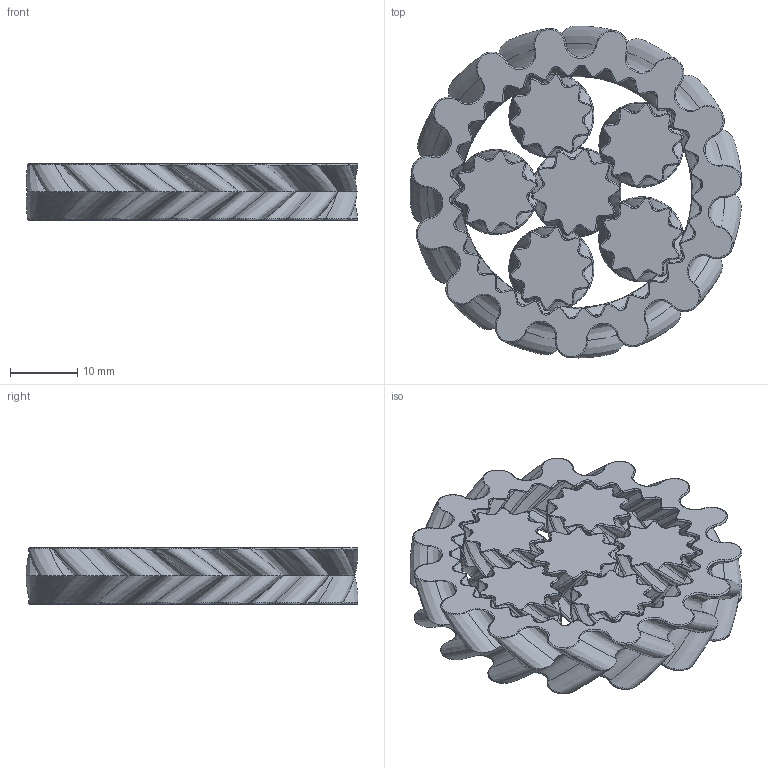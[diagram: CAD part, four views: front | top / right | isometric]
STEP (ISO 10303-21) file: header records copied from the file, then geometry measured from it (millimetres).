
FILE_DESCRIPTION(/* description */ (''),/* implementation_level */ '2;1');
FILE_NAME(/* name */ 'Gear Bearing v16.step',/* time_stamp */ '2024-04-15T16:51:38+01:00',/* author */ (''),/* organization */ (''),/* preprocessor_version */ 'ST-DEVELOPER v20',/* originating_system */ 'Autodesk Translation Framework v12.20.1.177',/* authorisation */ '');
FILE_SCHEMA (('AUTOMOTIVE_DESIGN { 1 0 10303 214 3 1 1 }'));
Products named in the file (4): Gear Bearing; Planets; Ring; Sun
Assembly tree (3 placements, depth 2):
  Gear Bearing
    Planets
    Ring
    Sun
Bounding box: 49.43 x 49.49 x 8.4 mm (x, y, z)
Volume: 9965 mm3; surface area: 9100.2 mm2
Topology: 7 solids, 7 shells, 1574 faces, 3780 edges, 2220 vertices
Faces by surface type: bspline 1560, plane 14
Entity records: 104341 total; most frequent: CARTESIAN_POINT 77281, ORIENTED_EDGE 7560, EDGE_CURVE 3780, B_SPLINE_CURVE_WITH_KNOTS 2700, VERTEX_POINT 2220, DIRECTION 2202, EDGE_LOOP 1576, FACE_OUTER_BOUND 1574
